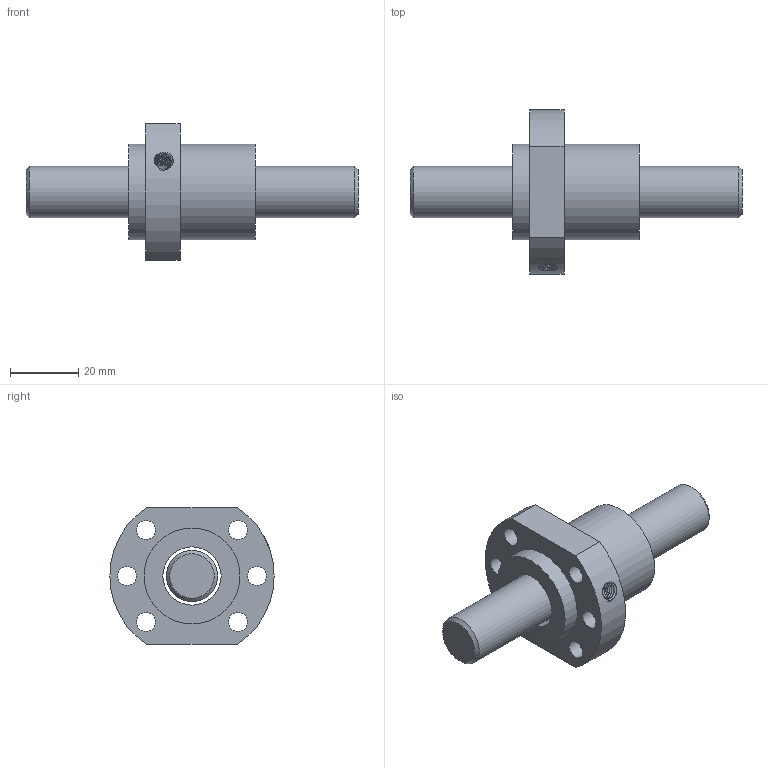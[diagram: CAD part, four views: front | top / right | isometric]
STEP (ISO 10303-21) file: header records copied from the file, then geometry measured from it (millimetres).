
FILE_DESCRIPTION(/* description */ ('Unknown','CAx-IF Rec.Pracs.---Representation and Presentation of Product Manufacturing Information (PMI)---4.0---2014-10-13','CAx-IF Rec.Pracs.---3D Tessellated Geometry---0.4---2014-09-14','2;1'),/* implementation_level */ '2;1');
FILE_NAME(/* name */ 'SFH1605-3.8',/* time_stamp */ '2020-12-07T15:00:14+08:00',/* author */ ('Unknown'),/* organization */ ('Unknown'),/* preprocessor_version */ 'ST-DEVELOPER v16.7',/* originating_system */ 'Solid Edge',/* authorisation */ 'Unknown');
FILE_SCHEMA (('AP242_MANAGED_MODEL_BASED_3D_ENGINEERING_MIM_LF { 1 0 10303 442 1 1 4 }'));
Length unit declared in the file: millimetre
Products named in the file (1): SFH1605-3
Bounding box: 97 x 48 x 40 mm (x, y, z)
Volume: 40310.1 mm3; surface area: 14608.5 mm2
Topology: 2 solids, 2 shells, 29 faces, 66 edges, 43 vertices
Faces by surface type: cylinder 15, plane 9, cone 3, bspline 2
Full cylindrical faces by diameter (mm): 2 x1, 5.5 x6, 15 x1, 17 x1, 28 x2
Entity records: 3532 total; most frequent: CARTESIAN_POINT 2847, DIRECTION 130, ORIENTED_EDGE 98, AXIS2_PLACEMENT_3D 62, EDGE_LOOP 61, FACE_BOUND 61, EDGE_CURVE 49, VERTEX_POINT 40
